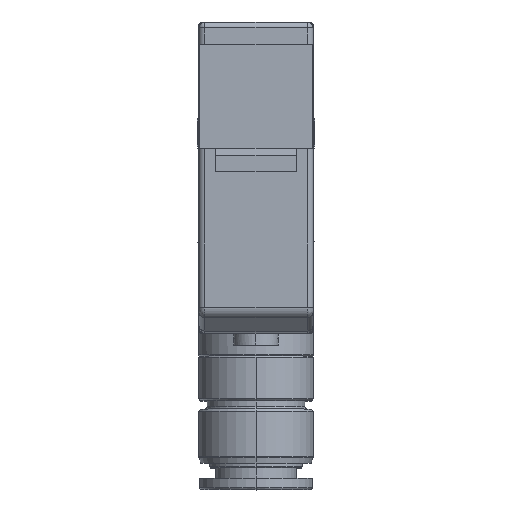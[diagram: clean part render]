
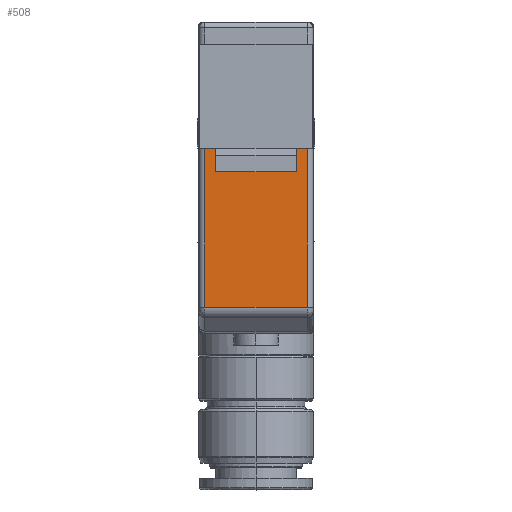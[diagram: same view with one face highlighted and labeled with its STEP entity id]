
A CAD part, top view. The second image highlights one B-rep face of the part: STEP entity #508.
In plain terms, the highlighted planar face has unit normal (0, 0, 1).
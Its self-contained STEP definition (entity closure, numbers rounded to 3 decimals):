
#508=ADVANCED_FACE('',(#2831),#2830,.F.);
#2830=PLANE('',#6158);
#2831=FACE_OUTER_BOUND('',#6159,.T.);
#6155=CARTESIAN_POINT('',(5.34,-26.283,27.4));
#6156=DIRECTION('',(0.,0.,-1.));
#6157=DIRECTION('',(-1.,0.,0.));
#6158=AXIS2_PLACEMENT_3D('',#6155,#6156,#6157);
#6159=EDGE_LOOP('',(#8843,#8844,#8845,#8846,#8847,#8848,#8849,#8850));
#8843=ORIENTED_EDGE('',*,*,#10372,.F.);
#8844=ORIENTED_EDGE('',*,*,#10379,.T.);
#8845=ORIENTED_EDGE('',*,*,#10380,.T.);
#8846=ORIENTED_EDGE('',*,*,#10381,.T.);
#8847=ORIENTED_EDGE('',*,*,#10364,.F.);
#8848=ORIENTED_EDGE('',*,*,#10300,.F.);
#8849=ORIENTED_EDGE('',*,*,#10309,.F.);
#8850=ORIENTED_EDGE('',*,*,#10302,.T.);
#10300=EDGE_CURVE('',#14172,#14157,#14179,.T.);
#10302=EDGE_CURVE('',#14193,#14186,#14194,.T.);
#10309=EDGE_CURVE('',#14193,#14172,#14239,.T.);
#10364=EDGE_CURVE('',#14157,#14609,#14610,.T.);
#10372=EDGE_CURVE('',#14656,#14186,#14663,.T.);
#10379=EDGE_CURVE('',#14656,#14709,#14710,.T.);
#10380=EDGE_CURVE('',#14709,#14716,#14717,.T.);
#10381=EDGE_CURVE('',#14716,#14609,#14723,.T.);
#14157=VERTEX_POINT('',#19635);
#14172=VERTEX_POINT('',#19644);
#14179=LINE('',#19648,#19649);
#14186=VERTEX_POINT('',#19652);
#14193=VERTEX_POINT('',#19656);
#14194=LINE('',#19657,#19658);
#14239=LINE('',#19681,#19682);
#14609=VERTEX_POINT('',#19890);
#14610=LINE('',#19891,#19892);
#14656=VERTEX_POINT('',#19917);
#14663=LINE('',#19922,#19923);
#14709=VERTEX_POINT('',#19947);
#14710=LINE('',#19948,#19949);
#14716=VERTEX_POINT('',#19951);
#14717=LINE('',#19952,#19953);
#14723=LINE('',#19955,#19956);
#19635=CARTESIAN_POINT('',(4.,-11.,27.4));
#19644=CARTESIAN_POINT('',(4.,-9.5,27.4));
#19648=CARTESIAN_POINT('',(4.,-9.5,27.4));
#19649=VECTOR('',#19650,1.5);
#19650=DIRECTION('',(0.,-1.,0.));
#19652=CARTESIAN_POINT('',(-4.,-11.,27.4));
#19656=CARTESIAN_POINT('',(-4.,-9.5,27.4));
#19657=CARTESIAN_POINT('',(-4.,-9.5,27.4));
#19658=VECTOR('',#19659,1.5);
#19659=DIRECTION('',(0.,-1.,0.));
#19681=CARTESIAN_POINT('',(-4.,-9.5,27.4));
#19682=VECTOR('',#19683,8.);
#19683=DIRECTION('',(1.,0.,0.));
#19890=CARTESIAN_POINT('',(4.45,-11.,27.4));
#19891=CARTESIAN_POINT('',(4.,-11.,27.4));
#19892=VECTOR('',#19893,0.45);
#19893=DIRECTION('',(1.,0.,0.));
#19917=CARTESIAN_POINT('',(-4.45,-11.,27.4));
#19922=CARTESIAN_POINT('',(-4.45,-11.,27.4));
#19923=VECTOR('',#19924,0.45);
#19924=DIRECTION('',(1.,0.,0.));
#19947=CARTESIAN_POINT('',(-4.45,-24.758,27.4));
#19948=CARTESIAN_POINT('',(-4.45,-11.,27.4));
#19949=VECTOR('',#19950,13.758);
#19950=DIRECTION('',(0.,-1.,0.));
#19951=CARTESIAN_POINT('',(4.45,-24.758,27.4));
#19952=CARTESIAN_POINT('',(-4.45,-24.758,27.4));
#19953=VECTOR('',#19954,8.9);
#19954=DIRECTION('',(1.,0.,0.));
#19955=CARTESIAN_POINT('',(4.45,-24.758,27.4));
#19956=VECTOR('',#19957,13.758);
#19957=DIRECTION('',(0.,1.,0.));
